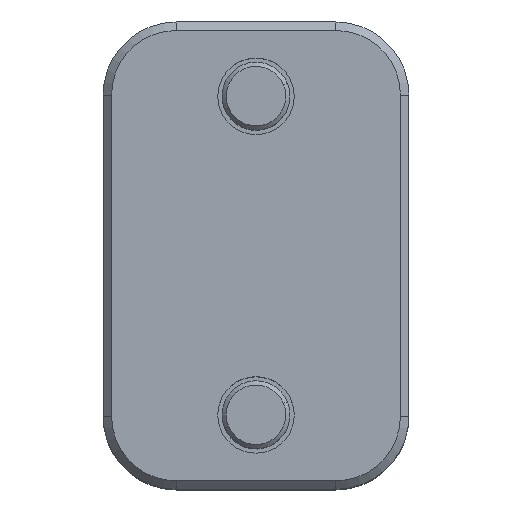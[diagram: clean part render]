
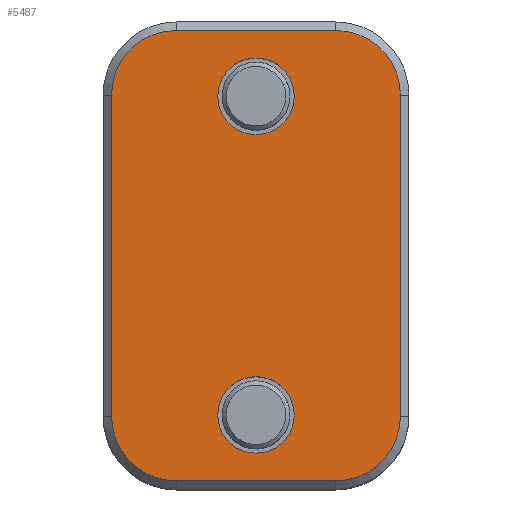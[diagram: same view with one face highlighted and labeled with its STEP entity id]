
A CAD part, top view. The second image highlights one B-rep face of the part: STEP entity #5487.
In plain terms, the highlighted planar face has unit normal (0, 0, 1).
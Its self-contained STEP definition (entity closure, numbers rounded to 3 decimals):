
#2 = AXIS2_PLACEMENT_3D ( 'NONE', #7387, #6560, #3794 ) ;
#111 = VERTEX_POINT ( 'NONE', #927 ) ;
#488 = DIRECTION ( 'NONE',  ( -1., 0., 0. ) ) ;
#888 = ORIENTED_EDGE ( 'NONE', *, *, #7681, .T. ) ;
#927 = CARTESIAN_POINT ( 'NONE',  ( -17., -18.9, 20. ) ) ;
#1012 = ORIENTED_EDGE ( 'NONE', *, *, #7332, .T. ) ;
#1121 = EDGE_CURVE ( 'NONE', #2940, #8829, #7923, .T. ) ;
#1497 = VERTEX_POINT ( 'NONE', #11238 ) ;
#1504 = CARTESIAN_POINT ( 'NONE',  ( -9.4, -18.9, 20. ) ) ;
#1536 = DIRECTION ( 'NONE',  ( 0., 0., 1. ) ) ;
#1757 = DIRECTION ( 'NONE',  ( 0., 0., 1. ) ) ;
#1765 = EDGE_CURVE ( 'NONE', #3379, #4844, #10655, .T. ) ;
#1769 = VERTEX_POINT ( 'NONE', #3147 ) ;
#1894 = CARTESIAN_POINT ( 'NONE',  ( 9.4, 26.5, 20. ) ) ;
#1915 = ORIENTED_EDGE ( 'NONE', *, *, #3501, .T. ) ;
#1932 = DIRECTION ( 'NONE',  ( 0., 0., -1. ) ) ;
#2140 = VERTEX_POINT ( 'NONE', #6359 ) ;
#2158 = EDGE_CURVE ( 'NONE', #1497, #2378, #6797, .T. ) ;
#2163 = CARTESIAN_POINT ( 'NONE',  ( -17., -18.9, 20. ) ) ;
#2309 = CARTESIAN_POINT ( 'NONE',  ( 0., -23.25, 20. ) ) ;
#2378 = VERTEX_POINT ( 'NONE', #2309 ) ;
#2428 = CARTESIAN_POINT ( 'NONE',  ( 9.4, -18.9, 20. ) ) ;
#2448 = EDGE_CURVE ( 'NONE', #2140, #11392, #3727, .T. ) ;
#2747 = ORIENTED_EDGE ( 'NONE', *, *, #2158, .T. ) ;
#2756 = EDGE_CURVE ( 'NONE', #8829, #2140, #10658, .T. ) ;
#2841 = PLANE ( 'NONE',  #11487 ) ;
#2940 = VERTEX_POINT ( 'NONE', #3161 ) ;
#2990 = ORIENTED_EDGE ( 'NONE', *, *, #1765, .T. ) ;
#3011 = CARTESIAN_POINT ( 'NONE',  ( 17., -27.5, 20. ) ) ;
#3079 = ORIENTED_EDGE ( 'NONE', *, *, #8509, .T. ) ;
#3147 = CARTESIAN_POINT ( 'NONE',  ( 9.4, -26.5, 20. ) ) ;
#3161 = CARTESIAN_POINT ( 'NONE',  ( 17., 18.9, 20. ) ) ;
#3190 = EDGE_LOOP ( 'NONE', ( #2747, #888 ) ) ;
#3379 = VERTEX_POINT ( 'NONE', #4354 ) ;
#3501 = EDGE_CURVE ( 'NONE', #4844, #3379, #6785, .T. ) ;
#3600 = DIRECTION ( 'NONE',  ( 0., 1., 0. ) ) ;
#3710 = CARTESIAN_POINT ( 'NONE',  ( 18., 26.5, 20. ) ) ;
#3714 = CIRCLE ( 'NONE', #5388, 7.6 ) ;
#3727 = CIRCLE ( 'NONE', #7636, 7.6 ) ;
#3794 = DIRECTION ( 'NONE',  ( 0., 1., 0. ) ) ;
#3811 = DIRECTION ( 'NONE',  ( 0., 0., -1. ) ) ;
#4010 = ORIENTED_EDGE ( 'NONE', *, *, #6837, .T. ) ;
#4117 = LINE ( 'NONE', #2163, #9662 ) ;
#4130 = DIRECTION ( 'NONE',  ( 0., 0., -1. ) ) ;
#4246 = CIRCLE ( 'NONE', #10046, 4.5 ) ;
#4318 = ORIENTED_EDGE ( 'NONE', *, *, #2448, .T. ) ;
#4354 = CARTESIAN_POINT ( 'NONE',  ( 0., 23.25, 20. ) ) ;
#4416 = CARTESIAN_POINT ( 'NONE',  ( -9.4, -26.5, 20. ) ) ;
#4551 = VECTOR ( 'NONE', #9247, 1000. ) ;
#4620 = DIRECTION ( 'NONE',  ( -1., 0., 0. ) ) ;
#4641 = EDGE_LOOP ( 'NONE', ( #11137, #1012, #8078, #11386, #4318, #4010, #9589, #3079 ) ) ;
#4689 = DIRECTION ( 'NONE',  ( -1., 0., 0. ) ) ;
#4844 = VERTEX_POINT ( 'NONE', #8937 ) ;
#5080 = LINE ( 'NONE', #10691, #5910 ) ;
#5388 = AXIS2_PLACEMENT_3D ( 'NONE', #2428, #1536, #7821 ) ;
#5450 = CARTESIAN_POINT ( 'NONE',  ( 9.4, 18.9, 20. ) ) ;
#5487 = ADVANCED_FACE ( 'NONE', ( #9056, #9891, #6747 ), #2841, .F. ) ;
#5694 = AXIS2_PLACEMENT_3D ( 'NONE', #9315, #4130, #9273 ) ;
#5705 = VERTEX_POINT ( 'NONE', #4416 ) ;
#5910 = VECTOR ( 'NONE', #10902, 1000. ) ;
#6233 = CARTESIAN_POINT ( 'NONE',  ( 0., 18.75, 20. ) ) ;
#6263 = VECTOR ( 'NONE', #4620, 1000. ) ;
#6359 = CARTESIAN_POINT ( 'NONE',  ( -9.4, 26.5, 20. ) ) ;
#6455 = EDGE_CURVE ( 'NONE', #1769, #6707, #3714, .T. ) ;
#6552 = AXIS2_PLACEMENT_3D ( 'NONE', #6233, #9899, #3600 ) ;
#6560 = DIRECTION ( 'NONE',  ( 0., 0., -1. ) ) ;
#6707 = VERTEX_POINT ( 'NONE', #8276 ) ;
#6747 = FACE_BOUND ( 'NONE', #3190, .T. ) ;
#6785 = CIRCLE ( 'NONE', #6552, 4.5 ) ;
#6797 = CIRCLE ( 'NONE', #2, 4.5 ) ;
#6837 = EDGE_CURVE ( 'NONE', #11392, #111, #4117, .T. ) ;
#7332 = EDGE_CURVE ( 'NONE', #6707, #2940, #9520, .T. ) ;
#7387 = CARTESIAN_POINT ( 'NONE',  ( 0., -18.75, 20. ) ) ;
#7401 = CARTESIAN_POINT ( 'NONE',  ( 0., -18.75, 20. ) ) ;
#7636 = AXIS2_PLACEMENT_3D ( 'NONE', #10383, #10426, #10466 ) ;
#7681 = EDGE_CURVE ( 'NONE', #2378, #1497, #4246, .T. ) ;
#7821 = DIRECTION ( 'NONE',  ( -1., 0., 0. ) ) ;
#7916 = EDGE_CURVE ( 'NONE', #111, #5705, #9779, .T. ) ;
#7923 = CIRCLE ( 'NONE', #10686, 7.6 ) ;
#8078 = ORIENTED_EDGE ( 'NONE', *, *, #1121, .T. ) ;
#8100 = DIRECTION ( 'NONE',  ( -1., 0., 0. ) ) ;
#8276 = CARTESIAN_POINT ( 'NONE',  ( 17., -18.9, 20. ) ) ;
#8306 = DIRECTION ( 'NONE',  ( 0., -1., 0. ) ) ;
#8509 = EDGE_CURVE ( 'NONE', #5705, #1769, #5080, .T. ) ;
#8829 = VERTEX_POINT ( 'NONE', #1894 ) ;
#8937 = CARTESIAN_POINT ( 'NONE',  ( 0., 14.25, 20. ) ) ;
#9056 = FACE_OUTER_BOUND ( 'NONE', #4641, .T. ) ;
#9079 = CARTESIAN_POINT ( 'NONE',  ( 18., -27.5, 20. ) ) ;
#9242 = AXIS2_PLACEMENT_3D ( 'NONE', #1504, #10318, #488 ) ;
#9247 = DIRECTION ( 'NONE',  ( 0., 1., 0. ) ) ;
#9273 = DIRECTION ( 'NONE',  ( 0., 1., 0. ) ) ;
#9315 = CARTESIAN_POINT ( 'NONE',  ( 0., 18.75, 20. ) ) ;
#9520 = LINE ( 'NONE', #3011, #4551 ) ;
#9589 = ORIENTED_EDGE ( 'NONE', *, *, #7916, .T. ) ;
#9662 = VECTOR ( 'NONE', #8306, 1000. ) ;
#9712 = CARTESIAN_POINT ( 'NONE',  ( -17., 18.9, 20. ) ) ;
#9779 = CIRCLE ( 'NONE', #9242, 7.6 ) ;
#9891 = FACE_BOUND ( 'NONE', #10516, .T. ) ;
#9899 = DIRECTION ( 'NONE',  ( 0., 0., -1. ) ) ;
#10046 = AXIS2_PLACEMENT_3D ( 'NONE', #7401, #1932, #10833 ) ;
#10318 = DIRECTION ( 'NONE',  ( 0., 0., 1. ) ) ;
#10383 = CARTESIAN_POINT ( 'NONE',  ( -9.4, 18.9, 20. ) ) ;
#10426 = DIRECTION ( 'NONE',  ( 0., 0., 1. ) ) ;
#10466 = DIRECTION ( 'NONE',  ( -1., 0., 0. ) ) ;
#10516 = EDGE_LOOP ( 'NONE', ( #2990, #1915 ) ) ;
#10655 = CIRCLE ( 'NONE', #5694, 4.5 ) ;
#10658 = LINE ( 'NONE', #3710, #6263 ) ;
#10686 = AXIS2_PLACEMENT_3D ( 'NONE', #5450, #1757, #8100 ) ;
#10691 = CARTESIAN_POINT ( 'NONE',  ( 18., -26.5, 20. ) ) ;
#10833 = DIRECTION ( 'NONE',  ( 0., 1., 0. ) ) ;
#10902 = DIRECTION ( 'NONE',  ( 1., 0., 0. ) ) ;
#11137 = ORIENTED_EDGE ( 'NONE', *, *, #6455, .T. ) ;
#11238 = CARTESIAN_POINT ( 'NONE',  ( 0., -14.25, 20. ) ) ;
#11386 = ORIENTED_EDGE ( 'NONE', *, *, #2756, .T. ) ;
#11392 = VERTEX_POINT ( 'NONE', #9712 ) ;
#11487 = AXIS2_PLACEMENT_3D ( 'NONE', #9079, #3811, #4689 ) ;
